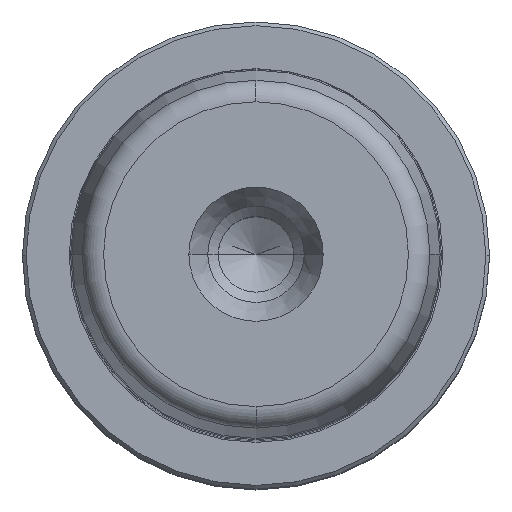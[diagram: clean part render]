
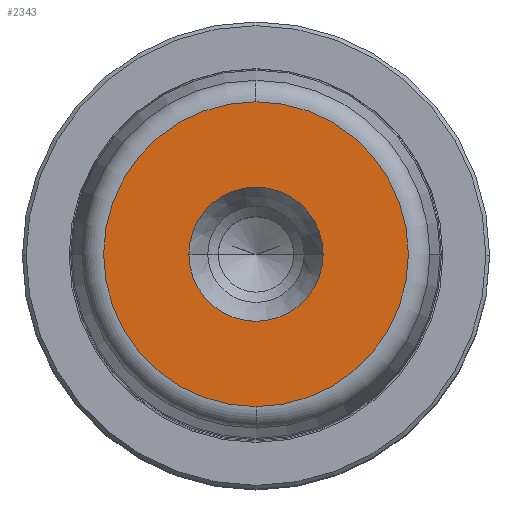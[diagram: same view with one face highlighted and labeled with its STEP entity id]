
A CAD part, top view. The second image highlights one B-rep face of the part: STEP entity #2343.
In plain terms, the highlighted planar face has unit normal (0, 0, 1).
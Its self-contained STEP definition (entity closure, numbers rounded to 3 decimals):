
#431=CARTESIAN_POINT('',(9.05,0.,110.0));
#432=VERTEX_POINT('',#431);
#439=CARTESIAN_POINT('',(-9.05,0.,110.0));
#440=VERTEX_POINT('',#439);
#441=CARTESIAN_POINT('',(0.0,0.,110.0));
#442=DIRECTION('',(0.0,0.0,1.0));
#443=DIRECTION('',(1.0,0.0,0.0));
#444=AXIS2_PLACEMENT_3D('',#441,#442,#443);
#445=CIRCLE('',#444,9.05);
#446=EDGE_CURVE('',#432,#440,#445,.T.);
#463=CARTESIAN_POINT('',(0.0,-20.554,110.0));
#464=VERTEX_POINT('',#463);
#474=CARTESIAN_POINT('',(0.,20.554,110.0));
#475=VERTEX_POINT('',#474);
#476=CARTESIAN_POINT('',(0.0,0.,110.0));
#477=DIRECTION('',(0.0,0.0,1.0));
#478=DIRECTION('',(1.0,0.0,0.0));
#479=AXIS2_PLACEMENT_3D('',#476,#477,#478);
#480=CIRCLE('',#479,20.554);
#481=EDGE_CURVE('',#475,#464,#480,.T.);
#2304=CARTESIAN_POINT('',(20.554,0.,110.0));
#2305=VERTEX_POINT('',#2304);
#2306=CARTESIAN_POINT('',(0.0,0.,110.0));
#2307=DIRECTION('',(0.0,0.0,1.0));
#2308=DIRECTION('',(1.0,0.0,0.0));
#2309=AXIS2_PLACEMENT_3D('',#2306,#2307,#2308);
#2310=CIRCLE('',#2309,20.554);
#2311=EDGE_CURVE('',#2305,#475,#2310,.T.);
#2313=CARTESIAN_POINT('',(0.0,0.,110.0));
#2314=DIRECTION('',(0.0,0.0,1.0));
#2315=DIRECTION('',(1.0,0.0,0.0));
#2316=AXIS2_PLACEMENT_3D('',#2313,#2314,#2315);
#2317=CIRCLE('',#2316,20.554);
#2318=EDGE_CURVE('',#464,#2305,#2317,.T.);
#2323=CARTESIAN_POINT('',(14.802,0.,110.0));
#2324=DIRECTION('',(0.0,0.0,1.0));
#2325=DIRECTION('',(0.0,-1.0,0.0));
#2326=AXIS2_PLACEMENT_3D('',#2323,#2324,#2325);
#2327=PLANE('',#2326);
#2328=ORIENTED_EDGE('',*,*,#2311,.T.);
#2329=ORIENTED_EDGE('',*,*,#481,.T.);
#2330=ORIENTED_EDGE('',*,*,#2318,.T.);
#2331=EDGE_LOOP('',(#2328,#2329,#2330));
#2332=FACE_OUTER_BOUND('',#2331,.T.);
#2333=ORIENTED_EDGE('',*,*,#446,.F.);
#2334=CARTESIAN_POINT('',(0.0,0.,110.0));
#2335=DIRECTION('',(0.0,0.0,1.0));
#2336=DIRECTION('',(1.0,0.0,0.0));
#2337=AXIS2_PLACEMENT_3D('',#2334,#2335,#2336);
#2338=CIRCLE('',#2337,9.05);
#2339=EDGE_CURVE('',#440,#432,#2338,.T.);
#2340=ORIENTED_EDGE('',*,*,#2339,.F.);
#2341=EDGE_LOOP('',(#2333,#2340));
#2342=FACE_BOUND('',#2341,.T.);
#2343=ADVANCED_FACE('',(#2332,#2342),#2327,.T.);
